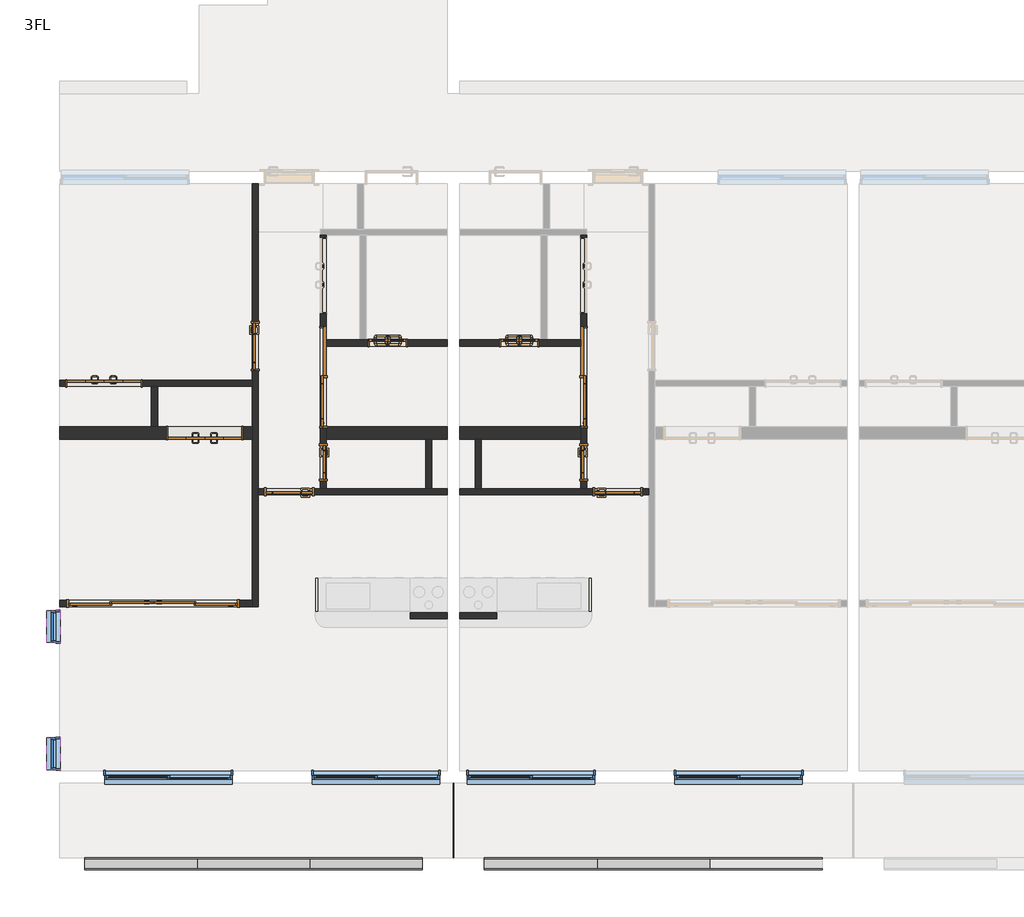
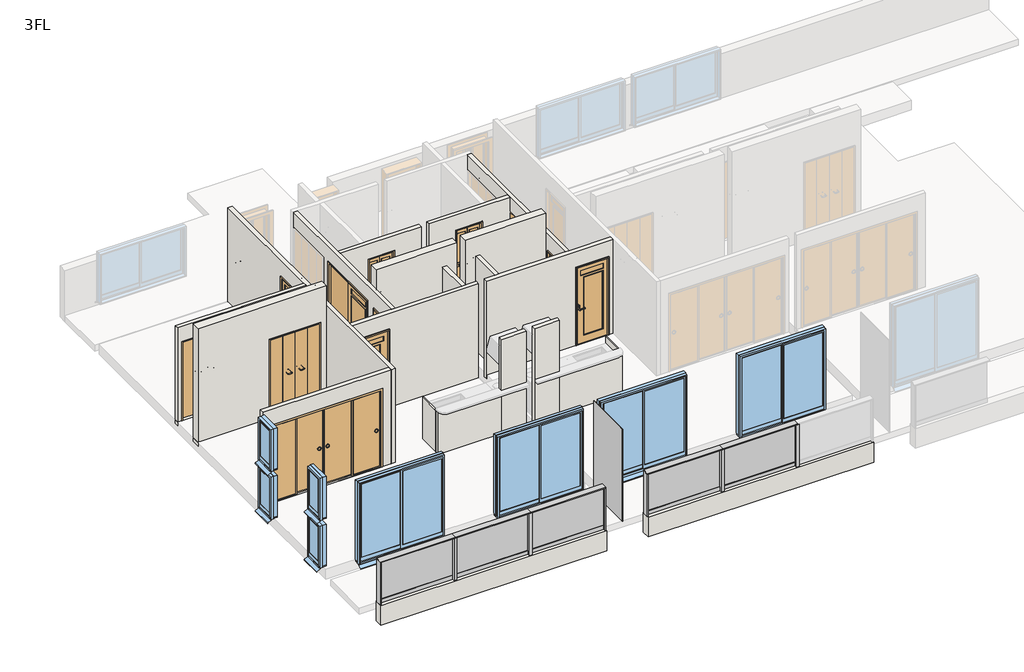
# One storey, part 1 of 3: 23 walls, 12 doors, 12 members, 8 windows, 6 plates.
"""IFC4 building model written with IfcOpenShell, lengths in millimetres."""

from ifc_helpers import new_model, si_unit, frame, origin, place, context, project, spatial, polyline, outline, extrude, faceted_brep, transform, mapped, element, save
from components import w1200h2000_6a144d60, w1200h2000_98cacc9b, w1600h2000_4c3c234a, w1600h2000_ca690e72, w2800h2000_670b855b, w600h2000_7f2747f4, w600h2000_6a266bef, w600h2000_94bb9c3c, w600h2000_8ea70a65, w800h2000_13e9f519, w800h2000_ccb03061, member_25x150_3f8205e2, member_25x150_f694351b, member_70x150_851c8a9b, plate_9f48129f, plate_365944b3, plate_cef4847d, window_2000x2000_f1ff98da, window_450x1000_e0a5e2da

model = new_model("IFC4")

# Units and contexts
model_context = context("Model", 3, world=origin())
ifc_project = project(units=[si_unit("LENGTHUNIT", "METRE", prefix="MILLI")], contexts=[model_context])

# Site, building, storey
site = spatial("IfcSite", under=ifc_project)
building = spatial("IfcBuilding", under=site)
storey = spatial("IfcBuildingStorey", under=building, Name="3FL", Elevation=7000.0)

# Doors
placement = place(None, origin())
w1200h2000_shape = w1200h2000_6a144d60(model_context)
element("IfcDoor", 1, ObjectType="木製折戸 : w1200h2000", at=placement, inside=storey, context=model_context, shape_type="MappedRepresentation", body=[
    mapped(w1200h2000_shape, transform((-10366.2187246, -9020.1171638, 7100.0), x_axis=(1.0, 0.0, 0.0), y_axis=(0.0, 1.0, 0.0), z_axis=(0.0, 0.0, 1.0))),
])
w1200h2000_2_shape = w1200h2000_98cacc9b(model_context)
element("IfcDoor", 2, ObjectType="木製折戸 : w1200h2000", at=placement, inside=storey, context=model_context, shape_type="MappedRepresentation", body=[
    mapped(w1200h2000_2_shape, transform((-8741.2187246, -9820.1171638, 7100.0), x_axis=(-1.0, 0.0, 0.0), y_axis=(0.0, -1.0, 0.0), z_axis=(0.0, 0.0, 1.0))),
])
w1600h2000_shape = w1600h2000_4c3c234a(model_context)
element("IfcDoor", 3, ObjectType="片引戸CL2017 : w1600h2000", at=placement, inside=storey, context=model_context, shape_type="MappedRepresentation", body=[
    mapped(w1600h2000_shape, transform((-6828.7187246, -8920.1171638, 7100.0), x_axis=(0.0, -1.0, 0.0), y_axis=(1.0, 0.0, 0.0), z_axis=(0.0, 0.0, 1.0))),
])
w1600h2000_2_shape = w1600h2000_ca690e72(model_context)
element("IfcDoor", 4, ObjectType="片引戸CL2017 : w1600h2000", at=placement, inside=storey, context=model_context, shape_type="MappedRepresentation", body=[
    mapped(w1600h2000_2_shape, transform((-2628.7187246, -8920.1171638, 7100.0), x_axis=(0.0, -1.0, 0.0), y_axis=(1.0, 0.0, 0.0), z_axis=(0.0, 0.0, 1.0))),
])
w2800h2000_shape = w2800h2000_670b855b(model_context)
element("IfcDoor", 5, ObjectType="引違い 4 枚 2 溝_襖 : w2800h2000", at=placement, inside=storey, context=model_context, shape_type="MappedRepresentation", body=[
    mapped(w2800h2000_shape, transform((-9584.2542286, -12570.1171638, 7100.0), x_axis=(-1.0, 0.0, 0.0), y_axis=(0.0, -1.0, 0.0), z_axis=(0.0, 0.0, 1.0))),
])
w600h2000_shape = w600h2000_7f2747f4(model_context)
element("IfcDoor", 6, ObjectType="片開戸CL2058 : w600h2000", at=placement, inside=storey, context=model_context, shape_type="MappedRepresentation", body=[
    mapped(w600h2000_shape, transform((-6828.7187246, -10295.1171638, 7100.0), x_axis=(0.0, -1.0, 0.0), y_axis=(1.0, 0.0, 0.0), z_axis=(0.0, 0.0, 1.0))),
])
w600h2000_2_shape = w600h2000_6a266bef(model_context)
element("IfcDoor", 7, ObjectType="浴室折戸 : w600h2000", at=placement, inside=storey, context=model_context, shape_type="MappedRepresentation", body=[
    mapped(w600h2000_2_shape, transform((-5788.7187246, -8370.1171638, 7100.0), x_axis=(1.0, 0.0, 0.0), y_axis=(0.0, 1.0, 0.0), z_axis=(0.0, 0.0, 1.0))),
])
w600h2000_3_shape = w600h2000_94bb9c3c(model_context)
element("IfcDoor", 8, ObjectType="浴室折戸 : w600h2000", at=placement, inside=storey, context=model_context, shape_type="MappedRepresentation", body=[
    mapped(w600h2000_3_shape, transform((-3668.7187246, -8370.1171638, 7100.0), x_axis=(-1.0, 0.0, 0.0), y_axis=(0.0, -1.0, 0.0), z_axis=(0.0, 0.0, 1.0))),
])
w600h2000_4_shape = w600h2000_8ea70a65(model_context)
element("IfcDoor", 9, ObjectType="片開戸CL2058 : w600h2000", at=placement, inside=storey, context=model_context, shape_type="MappedRepresentation", body=[
    mapped(w600h2000_4_shape, transform((-2628.7187246, -10295.1171638, 7100.0), x_axis=(0.0, -1.0, 0.0), y_axis=(1.0, 0.0, 0.0), z_axis=(0.0, 0.0, 1.0))),
])
w800h2000_shape = w800h2000_13e9f519(model_context)
element("IfcDoor", 10, ObjectType="片開戸CL2058 : w800h2000", at=placement, inside=storey, context=model_context, shape_type="MappedRepresentation", body=[
    mapped(w800h2000_shape, transform((-7928.7187246, -8420.1171638, 7100.0), x_axis=(0.0, -1.0, 0.0), y_axis=(1.0, 0.0, 0.0), z_axis=(0.0, 0.0, 1.0))),
])
element("IfcDoor", 11, ObjectType="片開戸CL2058 : w800h2000", at=placement, inside=storey, context=model_context, shape_type="MappedRepresentation", body=[
    mapped(w800h2000_shape, transform((-2078.7187246, -10770.1171638, 7100.0), x_axis=(1.0, 0.0, 0.0), y_axis=(0.0, 1.0, 0.0), z_axis=(0.0, 0.0, 1.0))),
])
w800h2000_2_shape = w800h2000_ccb03061(model_context)
element("IfcDoor", 12, ObjectType="片開戸CL2058 : w800h2000", at=placement, inside=storey, context=model_context, shape_type="MappedRepresentation", body=[
    mapped(w800h2000_2_shape, transform((-7378.7187246, -10770.1171638, 7100.0), x_axis=(-1.0, 0.0, 0.0), y_axis=(0.0, -1.0, 0.0), z_axis=(0.0, 0.0, 1.0))),
])

# Members
member_25x150_shape = member_25x150_3f8205e2(model_context)
element("IfcMember", 13, ObjectType="長方形のマリオン : 25x150", at=placement, inside=storey, context=model_context, shape_type="MappedRepresentation", body=[
    mapped(member_25x150_shape, transform((-5228.7187246, -16770.1171638, 7000.0), x_axis=(1.0, 0.0, 0.0), y_axis=(0.0, -1.0, 0.0), z_axis=(0.0, 0.0, -1.0))),
])
element("IfcMember", 14, ObjectType="長方形のマリオン : 25x150", at=placement, inside=storey, context=model_context, shape_type="MappedRepresentation", body=[
    mapped(member_25x150_shape, transform((-10678.7187246, -16770.1171638, 8075.0), x_axis=(-1.0, 0.0, 0.0), y_axis=(0.0, -1.0, 0.0), z_axis=(0.0, 0.0, 1.0))),
])
element("IfcMember", 15, ObjectType="長方形のマリオン : 25x150", at=placement, inside=storey, context=model_context, shape_type="MappedRepresentation", body=[
    mapped(member_25x150_shape, transform((-4228.7187246, -16770.1171638, 8075.0), x_axis=(-1.0, 0.0, 0.0), y_axis=(0.0, -1.0, 0.0), z_axis=(0.0, 0.0, 1.0))),
])
member_25x150_2_shape = member_25x150_f694351b(model_context)
element("IfcMember", 16, ObjectType="長方形のマリオン : 25x150", at=placement, inside=storey, context=model_context, shape_type="MappedRepresentation", body=[
    mapped(member_25x150_2_shape, transform((-5228.7187246, -16770.1171638, 8100.0), x_axis=(0.0, 0.0, 1.0), y_axis=(0.0, -1.0, 0.0), z_axis=(1.0, 0.0, 0.0))),
])
element("IfcMember", 17, ObjectType="長方形のマリオン : 25x150", at=placement, inside=storey, context=model_context, shape_type="MappedRepresentation", body=[
    mapped(member_25x150_2_shape, transform((-8862.052058, -16770.1171638, 8100.0), x_axis=(0.0, 0.0, 1.0), y_axis=(0.0, -1.0, 0.0), z_axis=(1.0, 0.0, 0.0))),
])
element("IfcMember", 18, ObjectType="長方形のマリオン : 25x150", at=placement, inside=storey, context=model_context, shape_type="MappedRepresentation", body=[
    mapped(member_25x150_2_shape, transform((-2412.052058, -16770.1171638, 8100.0), x_axis=(0.0, 0.0, 1.0), y_axis=(0.0, -1.0, 0.0), z_axis=(1.0, 0.0, 0.0))),
])
element("IfcMember", 19, ObjectType="長方形のマリオン : 25x150", at=placement, inside=storey, context=model_context, shape_type="MappedRepresentation", body=[
    mapped(member_25x150_2_shape, transform((-7045.3853913, -16770.1171638, 8100.0), x_axis=(0.0, 0.0, 1.0), y_axis=(0.0, -1.0, 0.0), z_axis=(1.0, 0.0, 0.0))),
])
element("IfcMember", 20, ObjectType="長方形のマリオン : 25x150", at=placement, inside=storey, context=model_context, shape_type="MappedRepresentation", body=[
    mapped(member_25x150_2_shape, transform((-595.3853913, -16770.1171638, 8100.0), x_axis=(0.0, 0.0, 1.0), y_axis=(0.0, -1.0, 0.0), z_axis=(1.0, 0.0, 0.0))),
])
member_70x150_shape = member_70x150_851c8a9b(model_context)
element("IfcMember", 21, ObjectType="長方形のマリオン : 70x150", at=placement, inside=storey, context=model_context, shape_type="MappedRepresentation", body=[
    mapped(member_70x150_shape, transform((-8862.052058, -16770.1171638, 7000.0), x_axis=(1.0, 0.0, 0.0), y_axis=(0.0, -1.0, 0.0), z_axis=(0.0, 0.0, -1.0))),
])
element("IfcMember", 22, ObjectType="長方形のマリオン : 70x150", at=placement, inside=storey, context=model_context, shape_type="MappedRepresentation", body=[
    mapped(member_70x150_shape, transform((-7045.3853913, -16770.1171638, 7000.0), x_axis=(1.0, 0.0, 0.0), y_axis=(0.0, -1.0, 0.0), z_axis=(0.0, 0.0, -1.0))),
])
element("IfcMember", 23, ObjectType="長方形のマリオン : 70x150", at=placement, inside=storey, context=model_context, shape_type="MappedRepresentation", body=[
    mapped(member_70x150_shape, transform((-2412.052058, -16770.1171638, 7000.0), x_axis=(1.0, 0.0, 0.0), y_axis=(0.0, -1.0, 0.0), z_axis=(0.0, 0.0, -1.0))),
])
element("IfcMember", 24, ObjectType="長方形のマリオン : 70x150", at=placement, inside=storey, context=model_context, shape_type="MappedRepresentation", body=[
    mapped(member_70x150_shape, transform((-595.3853913, -16770.1171638, 7000.0), x_axis=(1.0, 0.0, 0.0), y_axis=(0.0, -1.0, 0.0), z_axis=(0.0, 0.0, -1.0))),
])

# Plates
plate_shape = plate_9f48129f(model_context)
element("IfcPlate", 25, ObjectType="r パネル FIX 下框付 : 框 H100", at=placement, inside=storey, context=model_context, shape_type="MappedRepresentation", body=[
    mapped(plate_shape, transform((-9775.3853913, -16770.1171638, 7000.0), x_axis=(1.0, 0.0, 0.0), y_axis=(0.0, 1.0, 0.0), z_axis=(0.0, 0.0, 1.0))),
])
element("IfcPlate", 26, ObjectType="r パネル FIX 下框付 : 框 H100", at=placement, inside=storey, context=model_context, shape_type="MappedRepresentation", body=[
    mapped(plate_shape, transform((-6132.052058, -16770.1171638, 7000.0), x_axis=(1.0, 0.0, 0.0), y_axis=(0.0, 1.0, 0.0), z_axis=(0.0, 0.0, 1.0))),
])
element("IfcPlate", 27, ObjectType="r パネル FIX 下框付 : 框 H100", at=placement, inside=storey, context=model_context, shape_type="MappedRepresentation", body=[
    mapped(plate_shape, transform((-3325.3853913, -16770.1171638, 7000.0), x_axis=(1.0, 0.0, 0.0), y_axis=(0.0, 1.0, 0.0), z_axis=(0.0, 0.0, 1.0))),
])
plate_2_shape = plate_365944b3(model_context)
element("IfcPlate", 28, ObjectType="r パネル FIX 下框付 : 框 H100", at=placement, inside=storey, context=model_context, shape_type="MappedRepresentation", body=[
    mapped(plate_2_shape, transform((-7953.7187246, -16770.1171638, 7000.0), x_axis=(1.0, 0.0, 0.0), y_axis=(0.0, 1.0, 0.0), z_axis=(0.0, 0.0, 1.0))),
])
element("IfcPlate", 29, ObjectType="r パネル FIX 下框付 : 框 H100", at=placement, inside=storey, context=model_context, shape_type="MappedRepresentation", body=[
    mapped(plate_2_shape, transform((-1503.7187246, -16770.1171638, 7000.0), x_axis=(1.0, 0.0, 0.0), y_axis=(0.0, 1.0, 0.0), z_axis=(0.0, 0.0, 1.0))),
])
plate_3_shape = plate_cef4847d(model_context)
element("IfcPlate", 30, ObjectType="システム パネル : 標準", at=placement, inside=storey, context=model_context, shape_type="MappedRepresentation", body=[
    mapped(plate_3_shape, transform((-4728.7187246, -16070.1171638, 6950.0), x_axis=(0.0, -1.0, 0.0), y_axis=(1.0, 0.0, 0.0), z_axis=(0.0, 0.0, 1.0))),
])

# Walls
element("IfcWall", 31, ObjectType="(R)RC200", at=placement, inside=storey, context=model_context, shape_type="Brep", body=[
    faceted_brep([(-11078.7187246, -9920.1171638, 7000.0), (-7978.7187246, -9920.1171638, 7000.0), (-7978.7187246, -9920.1171638, 10000.0), (-11078.7187246, -9920.1171638, 10000.0), (-9361.2187246, -9920.1171638, 9120.0), (-8121.2187246, -9920.1171638, 9120.0), (-8121.2187246, -9920.1171638, 7100.0), (-9361.2187246, -9920.1171638, 7100.0), (-11078.7187246, -9720.1171638, 7000.0), (-11078.7187246, -9720.1171638, 10000.0), (-7978.7187246, -9720.1171638, 10000.0), (-7978.7187246, -9720.1171638, 7000.0), (-9503.7187246, -9720.1171638, 7000.0), (-9603.7187246, -9720.1171638, 7000.0), (-9361.2187246, -9720.1171638, 9120.0), (-9361.2187246, -9720.1171638, 7100.0), (-8121.2187246, -9720.1171638, 7100.0), (-8121.2187246, -9720.1171638, 9120.0)], [[[0, 1, 2, 3], [4, 5, 6, 7]], [[8, 9, 10, 11, 12, 13], [14, 15, 16, 17]], [[1, 0, 8, 13, 12, 11]], [[3, 2, 10, 9]], [[2, 1, 11, 10]], [[15, 14, 4, 7]], [[16, 15, 7, 6]], [[17, 16, 6, 5]], [[14, 17, 5, 4]], [[0, 3, 9, 8]]]),
])
element("IfcWall", 32, ObjectType="(R)RC200", at=placement, inside=storey, context=model_context, shape_type="Brep", body=[
    faceted_brep([(-6778.7187246, -9920.1171638, 7000.0), (-5178.7187246, -9920.1171638, 7000.0), (-5078.7187246, -9920.1171638, 7000.0), (-4828.7187246, -9920.1171638, 7000.0), (-4828.7187246, -9920.1171638, 10000.0), (-6778.7187246, -9920.1171638, 10000.0), (-6778.7187246, -9720.1171638, 7000.0), (-6778.7187246, -9720.1171638, 10000.0), (-4828.7187246, -9720.1171638, 10000.0), (-4828.7187246, -9720.1171638, 7000.0)], [[[0, 1, 2, 3, 4, 5]], [[6, 7, 8, 9]], [[3, 2, 1, 0, 6, 9]], [[5, 4, 8, 7]], [[0, 5, 7, 6]], [[4, 3, 9, 8]]]),
])
element("IfcWall", 33, ObjectType="(R)RC200", at=placement, inside=storey, context=model_context, shape_type="Brep", body=[
    faceted_brep([(-2678.7187246, -9720.1171638, 7000.0), (-4628.7187246, -9720.1171638, 7000.0), (-4628.7187246, -9720.1171638, 10000.0), (-2678.7187246, -9720.1171638, 10000.0), (-2678.7187246, -9920.1171638, 7000.0), (-2678.7187246, -9920.1171638, 10000.0), (-4628.7187246, -9920.1171638, 10000.0), (-4628.7187246, -9920.1171638, 7000.0), (-4378.7187246, -9920.1171638, 7000.0), (-4278.7187246, -9920.1171638, 7000.0)], [[[0, 1, 2, 3]], [[4, 5, 6, 7, 8, 9]], [[1, 0, 4, 9, 8, 7]], [[3, 2, 6, 5]], [[0, 3, 5, 4]], [[2, 1, 7, 6]]]),
])
element("IfcWall", 34, ObjectType="(R)RC200", at=placement, inside=storey, context=model_context, shape_type="SweptSolid", body=[
    extrude(outline(polyline([(-5228.7187246, -16870.1171638), (-10678.7187246, -16870.1171638), (-10678.7187246, -16670.1171638), (-5228.7187246, -16670.1171638), (-5228.7187246, -16870.1171638)])), frame((0.0, 0.0, 6500.0), z_axis=(0.0, 0.0, 1.0), x_axis=(1.0, 0.0, 0.0)), (0.0, 0.0, 1.0), 500.0),
])
element("IfcWall", 35, ObjectType="(R)RC200", at=placement, inside=storey, context=model_context, shape_type="SweptSolid", body=[
    extrude(outline(polyline([(1221.2812754, -16870.1171638), (-4228.7187246, -16870.1171638), (-4228.7187246, -16670.1171638), (1221.2812754, -16670.1171638), (1221.2812754, -16870.1171638)])), frame((0.0, 0.0, 6500.0), z_axis=(0.0, 0.0, 1.0), x_axis=(1.0, 0.0, 0.0)), (0.0, 0.0, 1.0), 500.0),
])
element("IfcWall", 36, ObjectType="(F)30", at=placement, inside=storey, context=model_context, shape_type="SweptSolid", body=[
    extrude(outline(polyline([(-6951.1124404, -12720.1171638), (-6951.1124404, -12165.1171638), (-6921.1124404, -12165.1171638), (-6921.1124404, -12720.1171638), (-6951.1124404, -12720.1171638)])), frame((0.0, 0.0, 7100.0), z_axis=(0.0, 0.0, 1.0), x_axis=(1.0, 0.0, 0.0)), (0.0, 0.0, 1.0), 1060.0),
])
element("IfcWall", 37, ObjectType="(F)30", at=placement, inside=storey, context=model_context, shape_type="SweptSolid", body=[
    extrude(outline(polyline([(-2536.3250089, -12720.1171638), (-2536.3250089, -12165.1171638), (-2506.3250089, -12165.1171638), (-2506.3250089, -12720.1171638), (-2536.3250089, -12720.1171638)])), frame((0.0, 0.0, 7100.0), z_axis=(0.0, 0.0, 1.0), x_axis=(1.0, 0.0, 0.0)), (0.0, 0.0, 1.0), 1060.0),
])
element("IfcWall", 38, ObjectType="(L1)LGS100", at=placement, inside=storey, context=model_context, shape_type="Brep", body=[
    faceted_brep([(-11078.7187246, -9070.1171638, 7000.0), (-9603.7187246, -9070.1171638, 7000.0), (-9503.7187246, -9070.1171638, 7000.0), (-7978.7187246, -9070.1171638, 7000.0), (-7978.7187246, -9070.1171638, 9500.0), (-9503.7187246, -9070.1171638, 9500.0), (-9603.7187246, -9070.1171638, 9500.0), (-11078.7187246, -9070.1171638, 9500.0), (-9746.2187246, -9070.1171638, 9120.0), (-9746.2187246, -9070.1171638, 7100.0), (-10986.2187246, -9070.1171638, 7100.0), (-10986.2187246, -9070.1171638, 9120.0), (-7978.7187246, -8970.1171638, 7000.0), (-11078.7187246, -8970.1171638, 7000.0), (-11078.7187246, -8970.1171638, 9500.0), (-7978.7187246, -8970.1171638, 9500.0), (-9746.2187246, -8970.1171638, 7100.0), (-9746.2187246, -8970.1171638, 9120.0), (-10986.2187246, -8970.1171638, 9120.0), (-10986.2187246, -8970.1171638, 7100.0)], [[[0, 1, 2, 3, 4, 5, 6, 7], [8, 9, 10, 11]], [[12, 13, 14, 15], [16, 17, 18, 19]], [[3, 2, 1, 0, 13, 12]], [[7, 6, 5, 4, 15, 14]], [[4, 3, 12, 15]], [[8, 17, 16, 9]], [[9, 16, 19, 10]], [[17, 8, 11, 18]], [[18, 11, 10, 19]], [[0, 7, 14, 13]]]),
])
element("IfcWall", 39, ObjectType="(L1)LGS100", at=placement, inside=storey, context=model_context, shape_type="SweptSolid", body=[
    extrude(outline(polyline([(-9503.7187246, -9070.1171638), (-9503.7187246, -9720.1171638), (-9603.7187246, -9720.1171638), (-9603.7187246, -9070.1171638), (-9503.7187246, -9070.1171638)])), frame((0.0, 0.0, 7000.0), z_axis=(0.0, 0.0, 1.0), x_axis=(1.0, 0.0, 0.0)), (0.0, 0.0, 1.0), 2500.0),
])
element("IfcWall", 40, ObjectType="(L1)LGS100", at=placement, inside=storey, context=model_context, shape_type="Brep", body=[
    faceted_brep([(-7878.7187246, -12620.1171638, 7000.0), (-7878.7187246, -10820.1171638, 7000.0), (-7878.7187246, -10720.1171638, 7000.0), (-7878.7187246, -5800.1171638, 7000.0), (-7878.7187246, -5800.1171638, 9500.0), (-7878.7187246, -10720.1171638, 9500.0), (-7878.7187246, -10820.1171638, 9500.0), (-7878.7187246, -12620.1171638, 9500.0), (-7878.7187246, -8820.1171638, 7100.0), (-7878.7187246, -8820.1171638, 9100.0), (-7878.7187246, -8020.1171638, 9100.0), (-7878.7187246, -8020.1171638, 7100.0), (-7978.7187246, -12620.1171638, 7000.0), (-7978.7187246, -12620.1171638, 9500.0), (-7978.7187246, -12520.1171638, 9500.0), (-7978.7187246, -9070.1171638, 9500.0), (-7978.7187246, -8970.1171638, 9500.0), (-7978.7187246, -5800.1171638, 9500.0), (-7978.7187246, -5800.1171638, 7000.0), (-7978.7187246, -8970.1171638, 7000.0), (-7978.7187246, -9070.1171638, 7000.0), (-7978.7187246, -9720.1171638, 7000.0), (-7978.7187246, -9920.1171638, 7000.0), (-7978.7187246, -12520.1171638, 7000.0), (-7978.7187246, -8820.1171638, 7100.0), (-7978.7187246, -8020.1171638, 7100.0), (-7978.7187246, -8020.1171638, 9100.0), (-7978.7187246, -8820.1171638, 9100.0)], [[[0, 1, 2, 3, 4, 5, 6, 7], [8, 9, 10, 11]], [[12, 13, 14, 15, 16, 17, 18, 19, 20, 21, 22, 23], [24, 25, 26, 27]], [[3, 2, 1, 0, 12, 23, 22, 21, 20, 19, 18]], [[7, 6, 5, 4, 17, 16, 15, 14, 13]], [[0, 7, 13, 12]], [[9, 8, 24, 27]], [[10, 9, 27, 26]], [[11, 10, 26, 25]], [[8, 11, 25, 24]], [[4, 3, 18, 17]]]),
])
element("IfcWall", 41, ObjectType="(L1)LGS100", at=placement, inside=storey, context=model_context, shape_type="Brep", body=[
    faceted_brep([(-6778.7187246, -8420.1171638, 7000.0), (-4828.7187246, -8420.1171638, 7000.0), (-4828.7187246, -8420.1171638, 9500.0), (-6778.7187246, -8420.1171638, 9500.0), (-5468.7187246, -8420.1171638, 9120.0), (-5468.7187246, -8420.1171638, 7100.0), (-6108.7187246, -8420.1171638, 7100.0), (-6108.7187246, -8420.1171638, 9120.0), (-6778.7187246, -8320.1171638, 7000.0), (-6778.7187246, -8320.1171638, 9500.0), (-6238.7187246, -8320.1171638, 9500.0), (-6138.7187246, -8320.1171638, 9500.0), (-4828.7187246, -8320.1171638, 9500.0), (-4828.7187246, -8320.1171638, 7000.0), (-6138.7187246, -8320.1171638, 7000.0), (-6238.7187246, -8320.1171638, 7000.0), (-5468.7187246, -8320.1171638, 9120.0), (-6108.7187246, -8320.1171638, 9120.0), (-6108.7187246, -8320.1171638, 7100.0), (-5468.7187246, -8320.1171638, 7100.0)], [[[0, 1, 2, 3], [4, 5, 6, 7]], [[8, 9, 10, 11, 12, 13, 14, 15], [16, 17, 18, 19]], [[1, 0, 8, 15, 14, 13]], [[3, 2, 12, 11, 10, 9]], [[0, 3, 9, 8]], [[5, 4, 16, 19]], [[6, 5, 19, 18]], [[7, 6, 18, 17]], [[4, 7, 17, 16]], [[2, 1, 13, 12]]]),
])
element("IfcWall", 42, ObjectType="(L1)LGS100", at=placement, inside=storey, context=model_context, shape_type="Brep", body=[
    faceted_brep([(-6778.7187246, -10720.1171638, 7000.0), (-6778.7187246, -9920.1171638, 7000.0), (-6778.7187246, -9720.1171638, 7000.0), (-6778.7187246, -8420.1171638, 7000.0), (-6778.7187246, -8320.1171638, 7000.0), (-6778.7187246, -6630.1171638, 7000.0), (-6778.7187246, -6630.1171638, 9500.0), (-6778.7187246, -8320.1171638, 9500.0), (-6778.7187246, -8420.1171638, 9500.0), (-6778.7187246, -10720.1171638, 9500.0), (-6778.7187246, -10595.1171638, 7100.0), (-6778.7187246, -10595.1171638, 9100.0), (-6778.7187246, -9995.1171638, 9100.0), (-6778.7187246, -9995.1171638, 7100.0), (-6778.7187246, -6660.1171638, 7100.0), (-6778.7187246, -7900.1171638, 7100.0), (-6778.7187246, -7900.1171638, 9120.0), (-6778.7187246, -6660.1171638, 9120.0), (-6778.7187246, -9745.1171638, 7100.0), (-6778.7187246, -9745.1171638, 9140.0), (-6778.7187246, -8095.1171638, 9140.0), (-6778.7187246, -8095.1171638, 7100.0), (-6878.7187246, -6630.1171638, 7000.0), (-6878.7187246, -10720.1171638, 7000.0), (-6878.7187246, -10720.1171638, 9500.0), (-6878.7187246, -6630.1171638, 9500.0), (-6878.7187246, -10595.1171638, 7100.0), (-6878.7187246, -9995.1171638, 7100.0), (-6878.7187246, -9995.1171638, 9100.0), (-6878.7187246, -10595.1171638, 9100.0), (-6878.7187246, -7900.1171638, 7100.0), (-6878.7187246, -6660.1171638, 7100.0), (-6878.7187246, -6660.1171638, 9120.0), (-6878.7187246, -7900.1171638, 9120.0), (-6878.7187246, -9745.1171638, 7100.0), (-6878.7187246, -8095.1171638, 7100.0), (-6878.7187246, -8095.1171638, 9140.0), (-6878.7187246, -9745.1171638, 9140.0)], [[[0, 1, 2, 3, 4, 5, 6, 7, 8, 9], [10, 11, 12, 13], [14, 15, 16, 17], [18, 19, 20, 21]], [[22, 23, 24, 25], [26, 27, 28, 29], [30, 31, 32, 33], [34, 35, 36, 37]], [[5, 4, 3, 2, 1, 0, 23, 22]], [[9, 8, 7, 6, 25, 24]], [[0, 9, 24, 23]], [[11, 10, 26, 29]], [[12, 11, 29, 28]], [[13, 12, 28, 27]], [[10, 13, 27, 26]], [[14, 31, 30, 15]], [[15, 30, 33, 16]], [[16, 33, 32, 17]], [[19, 18, 34, 37]], [[20, 19, 37, 36]], [[21, 20, 36, 35]], [[18, 21, 35, 34]], [[31, 14, 17, 32]], [[6, 5, 22, 25]]]),
])
element("IfcWall", 43, ObjectType="(L1)LGS100", at=placement, inside=storey, context=model_context, shape_type="SweptSolid", body=[
    extrude(outline(polyline([(-5078.7187246, -9920.1171638), (-5078.7187246, -10720.1171638), (-5178.7187246, -10720.1171638), (-5178.7187246, -9920.1171638), (-5078.7187246, -9920.1171638)])), frame((0.0, 0.0, 7000.0), z_axis=(0.0, 0.0, 1.0), x_axis=(1.0, 0.0, 0.0)), (0.0, 0.0, 1.0), 2500.0),
])
element("IfcWall", 44, ObjectType="(L1)LGS100", at=placement, inside=storey, context=model_context, shape_type="Brep", body=[
    faceted_brep([(-7878.7187246, -10820.1171638, 7000.0), (-4828.7187246, -10820.1171638, 7000.0), (-4828.7187246, -10820.1171638, 9500.0), (-7878.7187246, -10820.1171638, 9500.0), (-7778.7187246, -10820.1171638, 7100.0), (-7778.7187246, -10820.1171638, 9100.0), (-6978.7187246, -10820.1171638, 9100.0), (-6978.7187246, -10820.1171638, 7100.0), (-4828.7187246, -10720.1171638, 7000.0), (-5078.7187246, -10720.1171638, 7000.0), (-5178.7187246, -10720.1171638, 7000.0), (-6778.7187246, -10720.1171638, 7000.0), (-6878.7187246, -10720.1171638, 7000.0), (-7878.7187246, -10720.1171638, 7000.0), (-7878.7187246, -10720.1171638, 9500.0), (-6878.7187246, -10720.1171638, 9500.0), (-6778.7187246, -10720.1171638, 9500.0), (-5178.7187246, -10720.1171638, 9500.0), (-5078.7187246, -10720.1171638, 9500.0), (-4828.7187246, -10720.1171638, 9500.0), (-7778.7187246, -10720.1171638, 9100.0), (-7778.7187246, -10720.1171638, 7100.0), (-6978.7187246, -10720.1171638, 7100.0), (-6978.7187246, -10720.1171638, 9100.0)], [[[0, 1, 2, 3], [4, 5, 6, 7]], [[8, 9, 10, 11, 12, 13, 14, 15, 16, 17, 18, 19], [20, 21, 22, 23]], [[1, 0, 13, 12, 11, 10, 9, 8]], [[3, 2, 19, 18, 17, 16, 15, 14]], [[0, 3, 14, 13]], [[4, 21, 20, 5]], [[5, 20, 23, 6]], [[6, 23, 22, 7]], [[21, 4, 7, 22]], [[2, 1, 8, 19]]]),
])
element("IfcWall", 45, ObjectType="(L1)LGS100", at=placement, inside=storey, context=model_context, shape_type="SweptSolid", body=[
    extrude(outline(polyline([(7000.0, -11078.7187246), (7000.0, -7978.7187246), (9500.0, -7978.7187246), (9500.0, -11078.7187246), (7000.0, -11078.7187246)]), holes=[polyline([(9100.0, -10978.7187246), (9100.0, -8178.7187246), (7100.0, -8178.7187246), (7100.0, -10978.7187246), (9100.0, -10978.7187246)])]), frame((0.0, -12620.1171638, 0.0), z_axis=(0.0, 1.0, 0.0), x_axis=(0.0, 0.0, 1.0)), (0.0, 0.0, 1.0), 100.0),
])
element("IfcWall", 46, ObjectType="(L1)LGS100", at=placement, inside=storey, context=model_context, shape_type="Brep", body=[
    faceted_brep([(-2678.7187246, -8320.1171638, 7000.0), (-3218.7187246, -8320.1171638, 7000.0), (-3318.7187246, -8320.1171638, 7000.0), (-4628.7187246, -8320.1171638, 7000.0), (-4628.7187246, -8320.1171638, 9500.0), (-3318.7187246, -8320.1171638, 9500.0), (-3218.7187246, -8320.1171638, 9500.0), (-2678.7187246, -8320.1171638, 9500.0), (-3988.7187246, -8320.1171638, 9120.0), (-3988.7187246, -8320.1171638, 7100.0), (-3348.7187246, -8320.1171638, 7100.0), (-3348.7187246, -8320.1171638, 9120.0), (-2678.7187246, -8420.1171638, 7000.0), (-2678.7187246, -8420.1171638, 9500.0), (-4628.7187246, -8420.1171638, 9500.0), (-4628.7187246, -8420.1171638, 7000.0), (-3988.7187246, -8420.1171638, 9120.0), (-3348.7187246, -8420.1171638, 9120.0), (-3348.7187246, -8420.1171638, 7100.0), (-3988.7187246, -8420.1171638, 7100.0)], [[[0, 1, 2, 3, 4, 5, 6, 7], [8, 9, 10, 11]], [[12, 13, 14, 15], [16, 17, 18, 19]], [[3, 2, 1, 0, 12, 15]], [[7, 6, 5, 4, 14, 13]], [[0, 7, 13, 12]], [[9, 8, 16, 19]], [[10, 9, 19, 18]], [[11, 10, 18, 17]], [[8, 11, 17, 16]], [[4, 3, 15, 14]]]),
])
element("IfcWall", 47, ObjectType="(L1)LGS100", at=placement, inside=storey, context=model_context, shape_type="Brep", body=[
    faceted_brep([(-2578.7187246, -10720.1171638, 7000.0), (-2578.7187246, -6630.1171638, 7000.0), (-2578.7187246, -6630.1171638, 9500.0), (-2578.7187246, -10720.1171638, 9500.0), (-2578.7187246, -10595.1171638, 7100.0), (-2578.7187246, -10595.1171638, 9100.0), (-2578.7187246, -9995.1171638, 9100.0), (-2578.7187246, -9995.1171638, 7100.0), (-2578.7187246, -6660.1171638, 7100.0), (-2578.7187246, -7900.1171638, 7100.0), (-2578.7187246, -7900.1171638, 9120.0), (-2578.7187246, -6660.1171638, 9120.0), (-2578.7187246, -9745.1171638, 7100.0), (-2578.7187246, -9745.1171638, 9140.0), (-2578.7187246, -8095.1171638, 9140.0), (-2578.7187246, -8095.1171638, 7100.0), (-2678.7187246, -6630.1171638, 7000.0), (-2678.7187246, -8320.1171638, 7000.0), (-2678.7187246, -8420.1171638, 7000.0), (-2678.7187246, -9720.1171638, 7000.0), (-2678.7187246, -9920.1171638, 7000.0), (-2678.7187246, -10720.1171638, 7000.0), (-2678.7187246, -10720.1171638, 9500.0), (-2678.7187246, -8420.1171638, 9500.0), (-2678.7187246, -8320.1171638, 9500.0), (-2678.7187246, -6630.1171638, 9500.0), (-2678.7187246, -10595.1171638, 7100.0), (-2678.7187246, -9995.1171638, 7100.0), (-2678.7187246, -9995.1171638, 9100.0), (-2678.7187246, -10595.1171638, 9100.0), (-2678.7187246, -7900.1171638, 7100.0), (-2678.7187246, -6660.1171638, 7100.0), (-2678.7187246, -6660.1171638, 9120.0), (-2678.7187246, -7900.1171638, 9120.0), (-2678.7187246, -9745.1171638, 7100.0), (-2678.7187246, -8095.1171638, 7100.0), (-2678.7187246, -8095.1171638, 9140.0), (-2678.7187246, -9745.1171638, 9140.0)], [[[0, 1, 2, 3], [4, 5, 6, 7], [8, 9, 10, 11], [12, 13, 14, 15]], [[16, 17, 18, 19, 20, 21, 22, 23, 24, 25], [26, 27, 28, 29], [30, 31, 32, 33], [34, 35, 36, 37]], [[1, 0, 21, 20, 19, 18, 17, 16]], [[3, 2, 25, 24, 23, 22]], [[0, 3, 22, 21]], [[5, 4, 26, 29]], [[6, 5, 29, 28]], [[7, 6, 28, 27]], [[4, 7, 27, 26]], [[8, 31, 30, 9]], [[9, 30, 33, 10]], [[10, 33, 32, 11]], [[13, 12, 34, 37]], [[14, 13, 37, 36]], [[15, 14, 36, 35]], [[12, 15, 35, 34]], [[31, 8, 11, 32]], [[2, 1, 16, 25]]]),
])
element("IfcWall", 48, ObjectType="(L1)LGS100", at=placement, inside=storey, context=model_context, shape_type="SweptSolid", body=[
    extrude(outline(polyline([(-4278.7187246, -9920.1171638), (-4278.7187246, -10720.1171638), (-4378.7187246, -10720.1171638), (-4378.7187246, -9920.1171638), (-4278.7187246, -9920.1171638)])), frame((0.0, 0.0, 7000.0), z_axis=(0.0, 0.0, 1.0), x_axis=(1.0, 0.0, 0.0)), (0.0, 0.0, 1.0), 2500.0),
])
element("IfcWall", 49, ObjectType="(L1)LGS100", at=placement, inside=storey, context=model_context, shape_type="Brep", body=[
    faceted_brep([(-1578.7187246, -10720.1171638, 7000.0), (-2578.7187246, -10720.1171638, 7000.0), (-2678.7187246, -10720.1171638, 7000.0), (-4278.7187246, -10720.1171638, 7000.0), (-4378.7187246, -10720.1171638, 7000.0), (-4628.7187246, -10720.1171638, 7000.0), (-4628.7187246, -10720.1171638, 9500.0), (-4378.7187246, -10720.1171638, 9500.0), (-4278.7187246, -10720.1171638, 9500.0), (-2678.7187246, -10720.1171638, 9500.0), (-2578.7187246, -10720.1171638, 9500.0), (-1578.7187246, -10720.1171638, 9500.0), (-1678.7187246, -10720.1171638, 7100.0), (-1678.7187246, -10720.1171638, 9100.0), (-2478.7187246, -10720.1171638, 9100.0), (-2478.7187246, -10720.1171638, 7100.0), (-4628.7187246, -10820.1171638, 7000.0), (-1578.7187246, -10820.1171638, 7000.0), (-1578.7187246, -10820.1171638, 9500.0), (-4628.7187246, -10820.1171638, 9500.0), (-1678.7187246, -10820.1171638, 9100.0), (-1678.7187246, -10820.1171638, 7100.0), (-2478.7187246, -10820.1171638, 7100.0), (-2478.7187246, -10820.1171638, 9100.0)], [[[0, 1, 2, 3, 4, 5, 6, 7, 8, 9, 10, 11], [12, 13, 14, 15]], [[16, 17, 18, 19], [20, 21, 22, 23]], [[5, 4, 3, 2, 1, 0, 17, 16]], [[11, 10, 9, 8, 7, 6, 19, 18]], [[0, 11, 18, 17]], [[12, 21, 20, 13]], [[13, 20, 23, 14]], [[14, 23, 22, 15]], [[21, 12, 15, 22]], [[6, 5, 16, 19]]]),
])
element("IfcWall", 50, ObjectType="(L1)LGS100", at=placement, inside=storey, context=model_context, shape_type="Brep", body=[
    faceted_brep([(-4828.7187246, -12720.1171638, 7000.0), (-5428.7187246, -12720.1171638, 7000.0), (-5428.7187246, -12720.1171638, 8160.0), (-5428.7187246, -12720.1171638, 9500.0), (-4828.7187246, -12720.1171638, 9500.0), (-4828.7187246, -12820.1171638, 7000.0), (-4828.7187246, -12820.1171638, 9500.0), (-5428.7187246, -12820.1171638, 9500.0), (-5428.7187246, -12820.1171638, 8160.0), (-5428.7187246, -12820.1171638, 7000.0)], [[[0, 1, 2, 3, 4]], [[5, 6, 7, 8, 9]], [[1, 0, 5, 9]], [[3, 2, 1, 9, 8, 7]], [[4, 3, 7, 6]], [[0, 4, 6, 5]]]),
])
element("IfcWall", 51, ObjectType="(L1)LGS100", at=placement, inside=storey, context=model_context, shape_type="Brep", body=[
    faceted_brep([(-6951.1124404, -12820.1171638, 7000.0), (-5428.7187246, -12820.1171638, 7000.0), (-5428.7187246, -12820.1171638, 8160.0), (-6951.1124404, -12820.1171638, 8160.0), (-6951.1124404, -12720.1171638, 7000.0), (-6951.1124404, -12720.1171638, 7100.0), (-6951.1124404, -12720.1171638, 8160.0), (-6921.1124404, -12720.1171638, 8160.0), (-5428.7187246, -12720.1171638, 8160.0), (-5428.7187246, -12720.1171638, 7000.0)], [[[0, 1, 2, 3]], [[4, 5, 6, 7, 8, 9]], [[1, 0, 4, 9]], [[2, 1, 9, 8]], [[3, 2, 8, 7, 6]], [[0, 3, 6, 5, 4]]]),
])
element("IfcWall", 52, ObjectType="(L1)LGS100", at=placement, inside=storey, context=model_context, shape_type="Brep", body=[
    faceted_brep([(-4628.7187246, -12820.1171638, 7000.0), (-4028.7187246, -12820.1171638, 7000.0), (-4028.7187246, -12820.1171638, 8160.0), (-4028.7187246, -12820.1171638, 9500.0), (-4628.7187246, -12820.1171638, 9500.0), (-4628.7187246, -12720.1171638, 7000.0), (-4628.7187246, -12720.1171638, 9500.0), (-4028.7187246, -12720.1171638, 9500.0), (-4028.7187246, -12720.1171638, 8160.0), (-4028.7187246, -12720.1171638, 7000.0)], [[[0, 1, 2, 3, 4]], [[5, 6, 7, 8, 9]], [[1, 0, 5, 9]], [[3, 2, 1, 9, 8, 7]], [[4, 3, 7, 6]], [[0, 4, 6, 5]]]),
])
element("IfcWall", 53, ObjectType="(L1)LGS100", at=placement, inside=storey, context=model_context, shape_type="Brep", body=[
    faceted_brep([(-2506.3250089, -12720.1171638, 7000.0), (-4028.7187246, -12720.1171638, 7000.0), (-4028.7187246, -12720.1171638, 8160.0), (-2536.3250089, -12720.1171638, 8160.0), (-2506.3250089, -12720.1171638, 8160.0), (-2506.3250089, -12720.1171638, 7100.0), (-2506.3250089, -12820.1171638, 7000.0), (-2506.3250089, -12820.1171638, 8160.0), (-4028.7187246, -12820.1171638, 8160.0), (-4028.7187246, -12820.1171638, 7000.0)], [[[0, 1, 2, 3, 4, 5]], [[6, 7, 8, 9]], [[1, 0, 6, 9]], [[2, 1, 9, 8]], [[4, 3, 2, 8, 7]], [[0, 5, 4, 7, 6]]]),
])

# Windows
window_2000x2000_shape = window_2000x2000_f1ff98da(model_context)
element("IfcWindow", 54, ObjectType="鋼製_一般枠_引違い-二枚 : 2000x2000", at=placement, inside=storey, context=model_context, shape_type="MappedRepresentation", body=[
    mapped(window_2000x2000_shape, transform((-9328.7187246, -15370.1171638, 6200.0), x_axis=(-1.0, 0.0, 0.0), y_axis=(0.0, -1.0, 0.0), z_axis=(0.0, 0.0, 1.0))),
])
element("IfcWindow", 55, ObjectType="鋼製_一般枠_引違い-二枚 : 2000x2000", at=placement, inside=storey, context=model_context, shape_type="MappedRepresentation", body=[
    mapped(window_2000x2000_shape, transform((-5978.7187246, -15370.1171638, 6200.0), x_axis=(-1.0, 0.0, 0.0), y_axis=(0.0, -1.0, 0.0), z_axis=(0.0, 0.0, 1.0))),
])
element("IfcWindow", 56, ObjectType="鋼製_一般枠_引違い-二枚 : 2000x2000", at=placement, inside=storey, context=model_context, shape_type="MappedRepresentation", body=[
    mapped(window_2000x2000_shape, transform((-128.7187246, -15370.1171638, 6200.0), x_axis=(-1.0, 0.0, 0.0), y_axis=(0.0, -1.0, 0.0), z_axis=(0.0, 0.0, 1.0))),
])
element("IfcWindow", 57, ObjectType="鋼製_一般枠_引違い-二枚 : 2000x2000", at=placement, inside=storey, context=model_context, shape_type="MappedRepresentation", body=[
    mapped(window_2000x2000_shape, transform((-3478.7187246, -15370.1171638, 6200.0), x_axis=(-1.0, 0.0, 0.0), y_axis=(0.0, -1.0, 0.0), z_axis=(0.0, 0.0, 1.0))),
])
window_450x1000_shape = window_450x1000_e0a5e2da(model_context)
element("IfcWindow", 58, ObjectType="鋼製_一般枠_嵌殺し : 450x1000", at=placement, inside=storey, context=model_context, shape_type="MappedRepresentation", body=[
    mapped(window_450x1000_shape, transform((-11178.7187246, -14995.1171638, 6010.0), x_axis=(0.0, 1.0, 0.0), y_axis=(-1.0, 0.0, 0.0), z_axis=(0.0, 0.0, 1.0))),
])
element("IfcWindow", 59, ObjectType="鋼製_一般枠_嵌殺し : 450x1000", at=placement, inside=storey, context=model_context, shape_type="MappedRepresentation", body=[
    mapped(window_450x1000_shape, transform((-11178.7187246, -12945.1171638, 6010.0), x_axis=(0.0, 1.0, 0.0), y_axis=(-1.0, 0.0, 0.0), z_axis=(0.0, 0.0, 1.0))),
])
element("IfcWindow", 60, ObjectType="鋼製_一般枠_嵌殺し : 450x1000", at=placement, inside=storey, context=model_context, shape_type="MappedRepresentation", body=[
    mapped(window_450x1000_shape, transform((-11178.7187246, -14995.1171638, 7230.0), x_axis=(0.0, 1.0, 0.0), y_axis=(-1.0, 0.0, 0.0), z_axis=(0.0, 0.0, 1.0))),
])
element("IfcWindow", 61, ObjectType="鋼製_一般枠_嵌殺し : 450x1000", at=placement, inside=storey, context=model_context, shape_type="MappedRepresentation", body=[
    mapped(window_450x1000_shape, transform((-11178.7187246, -12945.1171638, 7230.0), x_axis=(0.0, 1.0, 0.0), y_axis=(-1.0, 0.0, 0.0), z_axis=(0.0, 0.0, 1.0))),
])

save(model, "model.ifc")
